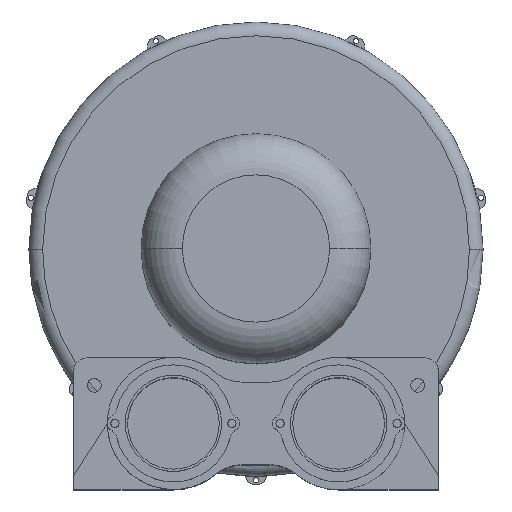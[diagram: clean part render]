
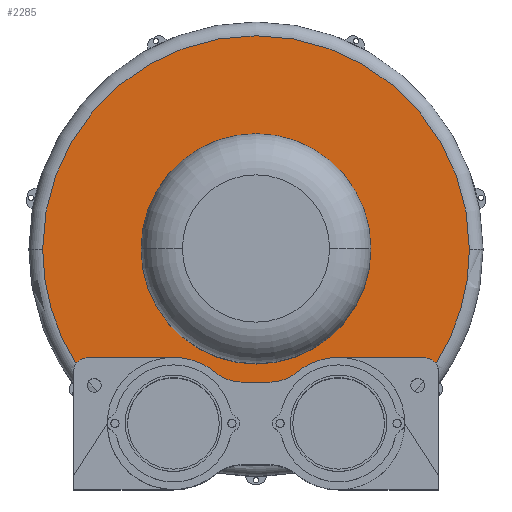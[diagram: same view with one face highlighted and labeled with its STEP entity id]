
A CAD part, top view. The second image highlights one B-rep face of the part: STEP entity #2285.
In plain terms, the highlighted planar face has unit normal (0, 0, 1).
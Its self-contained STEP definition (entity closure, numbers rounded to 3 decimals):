
#22 = DIRECTION ( 'NONE',  ( 1., 0., 0. ) ) ;
#65 = CIRCLE ( 'NONE', #4436, 30. ) ;
#116 = CARTESIAN_POINT ( 'NONE',  ( 122.5, -79., 50. ) ) ;
#130 = DIRECTION ( 'NONE',  ( 0., 0., -1. ) ) ;
#158 = EDGE_CURVE ( 'NONE', #1363, #4752, #935, .T. ) ;
#281 = CARTESIAN_POINT ( 'NONE',  ( 0., 0., 50. ) ) ;
#347 = EDGE_CURVE ( 'NONE', #5401, #5705, #5815, .T. ) ;
#384 = LINE ( 'NONE', #1294, #3847 ) ;
#565 = CARTESIAN_POINT ( 'NONE',  ( 83.5, 0., 50. ) ) ;
#574 = DIRECTION ( 'NONE',  ( 0., 0., 1. ) ) ;
#585 = CIRCLE ( 'NONE', #2696, 10. ) ;
#722 = CARTESIAN_POINT ( 'NONE',  ( -60., -127., 50. ) ) ;
#731 = EDGE_CURVE ( 'NONE', #1011, #1715, #1843, .T. ) ;
#735 = DIRECTION ( 'NONE',  ( 1., 0., 0. ) ) ;
#774 = EDGE_CURVE ( 'NONE', #1715, #5019, #1425, .T. ) ;
#832 = CARTESIAN_POINT ( 'NONE',  ( 60., -127., 50. ) ) ;
#927 = CARTESIAN_POINT ( 'NONE',  ( -60., -79., 50. ) ) ;
#935 = CIRCLE ( 'NONE', #4541, 155. ) ;
#939 = VERTEX_POINT ( 'NONE', #3193 ) ;
#983 = CARTESIAN_POINT ( 'NONE',  ( -83.5, 0., 50. ) ) ;
#992 = CARTESIAN_POINT ( 'NONE',  ( 0., 0., 50. ) ) ;
#1011 = VERTEX_POINT ( 'NONE', #116 ) ;
#1026 = ORIENTED_EDGE ( 'NONE', *, *, #2939, .T. ) ;
#1030 = DIRECTION ( 'NONE',  ( 0., 0., 1. ) ) ;
#1036 = CARTESIAN_POINT ( 'NONE',  ( 122.5, -89., 50. ) ) ;
#1051 = CARTESIAN_POINT ( 'NONE',  ( -122.5, -79., 50. ) ) ;
#1275 = DIRECTION ( 'NONE',  ( 1., 0., 0. ) ) ;
#1294 = CARTESIAN_POINT ( 'NONE',  ( -60., -79., 50. ) ) ;
#1363 = VERTEX_POINT ( 'NONE', #3955 ) ;
#1425 = CIRCLE ( 'NONE', #1777, 48. ) ;
#1438 = DIRECTION ( 'NONE',  ( 1., 0., 0. ) ) ;
#1442 = ORIENTED_EDGE ( 'NONE', *, *, #3372, .F. ) ;
#1485 = DIRECTION ( 'NONE',  ( 1., 0., 0. ) ) ;
#1559 = CARTESIAN_POINT ( 'NONE',  ( -155., 0., 50. ) ) ;
#1613 = CARTESIAN_POINT ( 'NONE',  ( -29.329, -90.077, 50. ) ) ;
#1700 = DIRECTION ( 'NONE',  ( -1., 0., 0. ) ) ;
#1702 = AXIS2_PLACEMENT_3D ( 'NONE', #722, #5573, #5625 ) ;
#1705 = VECTOR ( 'NONE', #3009, 1000. ) ;
#1715 = VERTEX_POINT ( 'NONE', #2461 ) ;
#1721 = ORIENTED_EDGE ( 'NONE', *, *, #2249, .F. ) ;
#1752 = EDGE_CURVE ( 'NONE', #4752, #5182, #3940, .T. ) ;
#1777 = AXIS2_PLACEMENT_3D ( 'NONE', #832, #3967, #1275 ) ;
#1843 = LINE ( 'NONE', #2762, #1705 ) ;
#1976 = CARTESIAN_POINT ( 'NONE',  ( -10.16, -67., 50. ) ) ;
#1991 = ORIENTED_EDGE ( 'NONE', *, *, #3790, .F. ) ;
#1993 = CARTESIAN_POINT ( 'NONE',  ( -130.715, -83.298, 50. ) ) ;
#2059 = DIRECTION ( 'NONE',  ( 0., 0., 1. ) ) ;
#2136 = CARTESIAN_POINT ( 'NONE',  ( -122.5, -89., 50. ) ) ;
#2155 = CIRCLE ( 'NONE', #5711, 83.5 ) ;
#2176 = AXIS2_PLACEMENT_3D ( 'NONE', #2136, #5308, #2592 ) ;
#2249 = EDGE_CURVE ( 'NONE', #4422, #3495, #5007, .T. ) ;
#2277 = EDGE_CURVE ( 'NONE', #5019, #4204, #65, .T. ) ;
#2285 = ADVANCED_FACE ( 'NONE', ( #2733, #4718 ), #5081, .T. ) ;
#2437 = DIRECTION ( 'NONE',  ( 1., 0., 0. ) ) ;
#2461 = CARTESIAN_POINT ( 'NONE',  ( 60., -79., 50. ) ) ;
#2509 = CIRCLE ( 'NONE', #2577, 155. ) ;
#2577 = AXIS2_PLACEMENT_3D ( 'NONE', #3732, #1030, #4184 ) ;
#2587 = AXIS2_PLACEMENT_3D ( 'NONE', #1976, #5156, #2437 ) ;
#2592 = DIRECTION ( 'NONE',  ( 1., 0., 0. ) ) ;
#2696 = AXIS2_PLACEMENT_3D ( 'NONE', #1036, #4190, #1485 ) ;
#2706 = ORIENTED_EDGE ( 'NONE', *, *, #5240, .F. ) ;
#2711 = DIRECTION ( 'NONE',  ( 0., 0., 1. ) ) ;
#2733 = FACE_BOUND ( 'NONE', #3280, .T. ) ;
#2762 = CARTESIAN_POINT ( 'NONE',  ( 122.5, -79., 50. ) ) ;
#2772 = ORIENTED_EDGE ( 'NONE', *, *, #774, .F. ) ;
#2806 = CARTESIAN_POINT ( 'NONE',  ( 10.16, -67., 50. ) ) ;
#2853 = CIRCLE ( 'NONE', #2587, 30. ) ;
#2903 = LINE ( 'NONE', #3018, #3979 ) ;
#2939 = EDGE_CURVE ( 'NONE', #5675, #1363, #2509, .T. ) ;
#2960 = VERTEX_POINT ( 'NONE', #1051 ) ;
#3009 = DIRECTION ( 'NONE',  ( -1., 0., 0. ) ) ;
#3018 = CARTESIAN_POINT ( 'NONE',  ( 10.16, -97., 50. ) ) ;
#3051 = ORIENTED_EDGE ( 'NONE', *, *, #347, .F. ) ;
#3137 = ORIENTED_EDGE ( 'NONE', *, *, #1752, .T. ) ;
#3160 = ORIENTED_EDGE ( 'NONE', *, *, #158, .T. ) ;
#3193 = CARTESIAN_POINT ( 'NONE',  ( -10.16, -97., 50. ) ) ;
#3264 = DIRECTION ( 'NONE',  ( -1., 0., 0. ) ) ;
#3280 = EDGE_LOOP ( 'NONE', ( #1721, #2706 ) ) ;
#3372 = EDGE_CURVE ( 'NONE', #5705, #2960, #384, .T. ) ;
#3433 = DIRECTION ( 'NONE',  ( 0., 0., 1. ) ) ;
#3441 = ORIENTED_EDGE ( 'NONE', *, *, #731, .F. ) ;
#3468 = ORIENTED_EDGE ( 'NONE', *, *, #4887, .F. ) ;
#3493 = ORIENTED_EDGE ( 'NONE', *, *, #4467, .F. ) ;
#3495 = VERTEX_POINT ( 'NONE', #565 ) ;
#3520 = CARTESIAN_POINT ( 'NONE',  ( 10.16, -97., 50. ) ) ;
#3524 = AXIS2_PLACEMENT_3D ( 'NONE', #992, #4153, #1438 ) ;
#3731 = DIRECTION ( 'NONE',  ( 1., 0., 0. ) ) ;
#3732 = CARTESIAN_POINT ( 'NONE',  ( 0., 0., 50. ) ) ;
#3790 = EDGE_CURVE ( 'NONE', #4204, #939, #2903, .T. ) ;
#3847 = VECTOR ( 'NONE', #4447, 1000. ) ;
#3940 = CIRCLE ( 'NONE', #5686, 155. ) ;
#3955 = CARTESIAN_POINT ( 'NONE',  ( 155., 0., 50. ) ) ;
#3967 = DIRECTION ( 'NONE',  ( 0., 0., 1. ) ) ;
#3979 = VECTOR ( 'NONE', #1700, 1000. ) ;
#3998 = CIRCLE ( 'NONE', #2176, 10. ) ;
#4153 = DIRECTION ( 'NONE',  ( 0., 0., 1. ) ) ;
#4184 = DIRECTION ( 'NONE',  ( 1., 0., 0. ) ) ;
#4190 = DIRECTION ( 'NONE',  ( 0., 0., 1. ) ) ;
#4204 = VERTEX_POINT ( 'NONE', #3520 ) ;
#4422 = VERTEX_POINT ( 'NONE', #983 ) ;
#4436 = AXIS2_PLACEMENT_3D ( 'NONE', #2806, #130, #3264 ) ;
#4447 = DIRECTION ( 'NONE',  ( -1., 0., 0. ) ) ;
#4467 = EDGE_CURVE ( 'NONE', #5675, #1011, #585, .T. ) ;
#4517 = CARTESIAN_POINT ( 'NONE',  ( 29.329, -90.077, 50. ) ) ;
#4524 = CARTESIAN_POINT ( 'NONE',  ( 130.715, -83.298, 50. ) ) ;
#4541 = AXIS2_PLACEMENT_3D ( 'NONE', #5447, #2711, #22 ) ;
#4624 = CARTESIAN_POINT ( 'NONE',  ( 0., 0., 50. ) ) ;
#4700 = EDGE_CURVE ( 'NONE', #939, #5401, #2853, .T. ) ;
#4718 = FACE_OUTER_BOUND ( 'NONE', #5274, .T. ) ;
#4752 = VERTEX_POINT ( 'NONE', #1559 ) ;
#4770 = CARTESIAN_POINT ( 'NONE',  ( 0., 0., 50. ) ) ;
#4887 = EDGE_CURVE ( 'NONE', #2960, #5182, #3998, .T. ) ;
#5001 = ORIENTED_EDGE ( 'NONE', *, *, #2277, .F. ) ;
#5007 = CIRCLE ( 'NONE', #3524, 83.5 ) ;
#5019 = VERTEX_POINT ( 'NONE', #4517 ) ;
#5081 = PLANE ( 'NONE',  #5656 ) ;
#5156 = DIRECTION ( 'NONE',  ( 0., 0., -1. ) ) ;
#5182 = VERTEX_POINT ( 'NONE', #1993 ) ;
#5229 = DIRECTION ( 'NONE',  ( 1., 0., 0. ) ) ;
#5240 = EDGE_CURVE ( 'NONE', #3495, #4422, #2155, .T. ) ;
#5274 = EDGE_LOOP ( 'NONE', ( #3441, #3493, #1026, #3160, #3137, #3468, #1442, #3051, #5826, #1991, #5001, #2772 ) ) ;
#5308 = DIRECTION ( 'NONE',  ( 0., 0., 1. ) ) ;
#5401 = VERTEX_POINT ( 'NONE', #1613 ) ;
#5447 = CARTESIAN_POINT ( 'NONE',  ( 0., 0., 50. ) ) ;
#5573 = DIRECTION ( 'NONE',  ( 0., 0., 1. ) ) ;
#5625 = DIRECTION ( 'NONE',  ( -1., 0., 0. ) ) ;
#5656 = AXIS2_PLACEMENT_3D ( 'NONE', #4624, #574, #3731 ) ;
#5675 = VERTEX_POINT ( 'NONE', #4524 ) ;
#5686 = AXIS2_PLACEMENT_3D ( 'NONE', #281, #3433, #735 ) ;
#5705 = VERTEX_POINT ( 'NONE', #927 ) ;
#5711 = AXIS2_PLACEMENT_3D ( 'NONE', #4770, #2059, #5229 ) ;
#5815 = CIRCLE ( 'NONE', #1702, 48. ) ;
#5826 = ORIENTED_EDGE ( 'NONE', *, *, #4700, .F. ) ;
